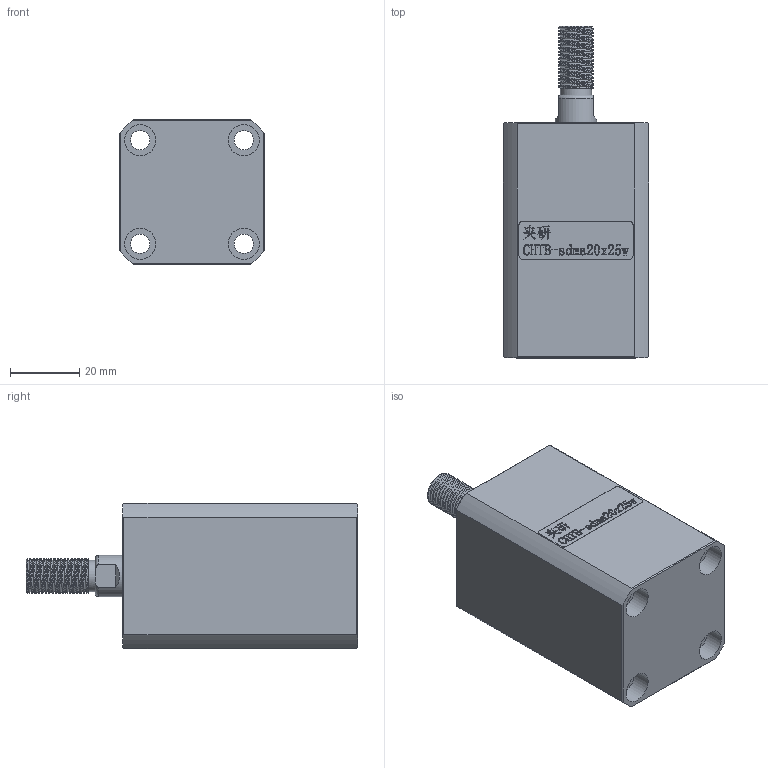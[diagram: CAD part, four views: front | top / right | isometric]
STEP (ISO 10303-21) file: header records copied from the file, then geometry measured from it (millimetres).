
FILE_DESCRIPTION(/* description */ (''),/* implementation_level */ '2;1');
FILE_NAME(/* name */ 'CHTB-sdma20x25w.stp',/* time_stamp */ '2022-04-29T15:20:16+08:00',/* author */ (''),/* organization */ (''),/* preprocessor_version */ 'ST-DEVELOPER v16.7',/* originating_system */ 'SIEMENS PLM Software NX 12.0',/* authorisation */ '');
FILE_SCHEMA (('AUTOMOTIVE_DESIGN { 1 0 10303 214 3 1 1 1 }'));
Length unit declared in the file: millimetre
Products named in the file (1): CHTB-sdma20x25w
Bounding box: 42 x 96 x 42 mm (x, y, z)
Volume: 104725.4 mm3; surface area: 33632.8 mm2
Topology: 3 solids, 3 shells, 521 faces, 1490 edges, 1022 vertices
Faces by surface type: plane 320, extrusion 115, cylinder 52, torus 18, bspline 13, cone 3
Full cylindrical faces by diameter (mm): 2.5 x2, 3 x2, 4 x2, 5.6 x4, 6.3 x2, 9 x9, 12 x2, 16 x2, 18 x1, 20 x5, 26.5 x9
Entity records: 27766 total; most frequent: CARTESIAN_POINT 12624, ORIENTED_EDGE 2808, DIRECTION 1983, EDGE_CURVE 1404, VECTOR 1015, VERTEX_POINT 999, LINE 900, EDGE_LOOP 629
